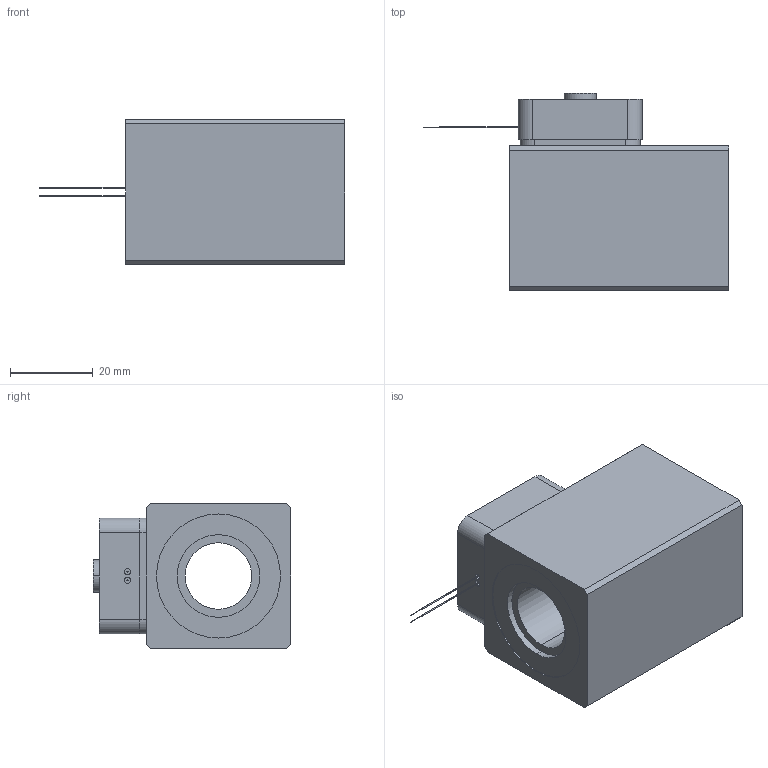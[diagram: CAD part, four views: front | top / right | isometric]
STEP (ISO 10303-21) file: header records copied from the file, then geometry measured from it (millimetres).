
FILE_DESCRIPTION (( 'STEP AP214' ), '1' );
FILE_NAME ('MLS35_16x50-M47.STEP', '2015-07-07T05:20:00', ( '' ), ( '' ), 'SwSTEP 2.0', 'SolidWorks 2014', '' );
FILE_SCHEMA (( 'AUTOMOTIVE_DESIGN' ));
Length unit declared in the file: millimetre
Products named in the file (2): MLS35_16x50-M47
Bounding box: 74 x 47.8 x 35 mm (x, y, z)
Volume: 61657 mm3; surface area: 15566.2 mm2
Topology: 5 solids, 11 shells, 257 faces, 620 edges, 409 vertices
Faces by surface type: plane 160, cylinder 91, torus 2, bspline 2, cone 2
Entity records: 10475 total; most frequent: CARTESIAN_POINT 1573, DIRECTION 1299, ORIENTED_EDGE 1240, EDGE_CURVE 620, AXIS2_PLACEMENT_3D 445, VERTEX_POINT 409, LINE 409, VECTOR 409
